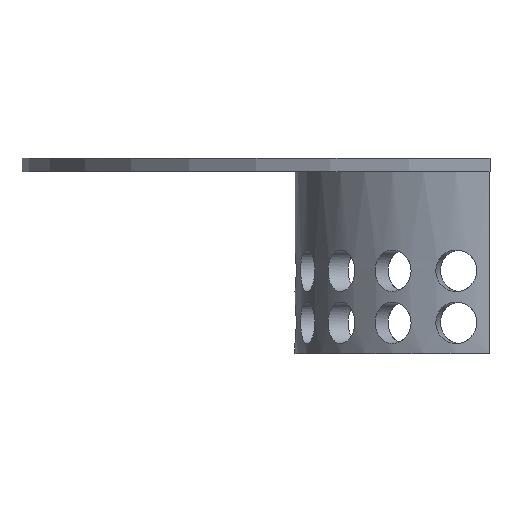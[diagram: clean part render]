
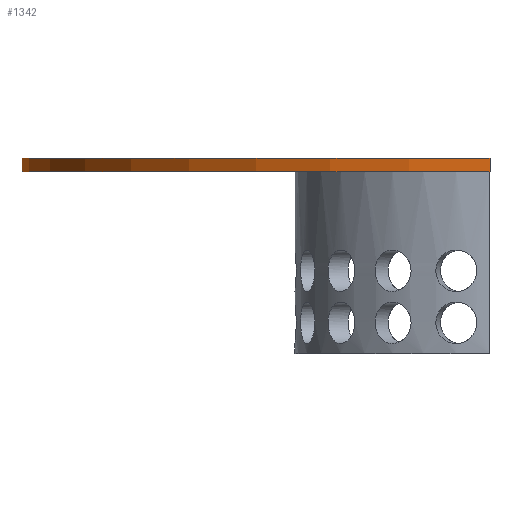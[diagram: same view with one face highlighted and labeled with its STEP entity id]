
A CAD part, front view. The second image highlights one B-rep face of the part: STEP entity #1342.
In plain terms, the highlighted cylindrical face has radius 90 mm (diameter 180 mm), a partial arc.
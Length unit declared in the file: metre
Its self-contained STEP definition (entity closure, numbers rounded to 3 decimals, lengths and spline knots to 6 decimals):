
#139=CIRCLE('',#1434,0.09);
#140=CIRCLE('',#1435,0.09);
#158=LINE('',#2277,#186);
#159=LINE('',#2281,#187);
#186=VECTOR('',#1592,1.);
#187=VECTOR('',#1597,1.);
#273=ORIENTED_EDGE('',*,*,#557,.T.);
#274=ORIENTED_EDGE('',*,*,#558,.F.);
#275=ORIENTED_EDGE('',*,*,#559,.F.);
#276=ORIENTED_EDGE('',*,*,#556,.T.);
#556=EDGE_CURVE('',#700,#706,#158,.T.);
#557=EDGE_CURVE('',#706,#707,#139,.T.);
#558=EDGE_CURVE('',#708,#707,#159,.T.);
#559=EDGE_CURVE('',#700,#708,#140,.T.);
#700=VERTEX_POINT('',#2264);
#706=VERTEX_POINT('',#2276);
#707=VERTEX_POINT('',#2280);
#708=VERTEX_POINT('',#2282);
#885=EDGE_LOOP('',(#273,#274,#275,#276));
#1120=FACE_BOUND('',#885,.T.);
#1318=CYLINDRICAL_SURFACE('',#1433,0.09);
#1342=ADVANCED_FACE('',(#1120),#1318,.T.);
#1433=AXIS2_PLACEMENT_3D('',#2278,#1593,#1594);
#1434=AXIS2_PLACEMENT_3D('',#2279,#1595,#1596);
#1435=AXIS2_PLACEMENT_3D('',#2283,#1598,#1599);
#1592=DIRECTION('',(0.,0.,-1.));
#1593=DIRECTION('',(0.,0.,-1.));
#1594=DIRECTION('',(-1.,0.,0.));
#1595=DIRECTION('',(0.,0.,1.));
#1596=DIRECTION('',(1.,0.,0.));
#1597=DIRECTION('',(0.,0.,-1.));
#1598=DIRECTION('',(0.,0.,1.));
#1599=DIRECTION('',(1.,0.,0.));
#2264=CARTESIAN_POINT('',(0.,0.09,0.0025));
#2276=CARTESIAN_POINT('',(0.,0.09,0.));
#2277=CARTESIAN_POINT('',(0.,0.09,0.0025));
#2278=CARTESIAN_POINT('',(0.,0.,0.0025));
#2279=CARTESIAN_POINT('',(0.,0.,0.));
#2280=CARTESIAN_POINT('',(0.,-0.09,0.));
#2281=CARTESIAN_POINT('',(0.,-0.09,0.0025));
#2282=CARTESIAN_POINT('',(0.,-0.09,0.0025));
#2283=CARTESIAN_POINT('',(0.,0.,0.0025));
